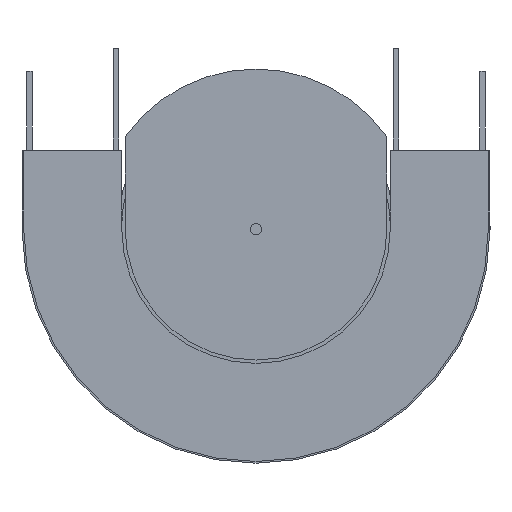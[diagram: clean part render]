
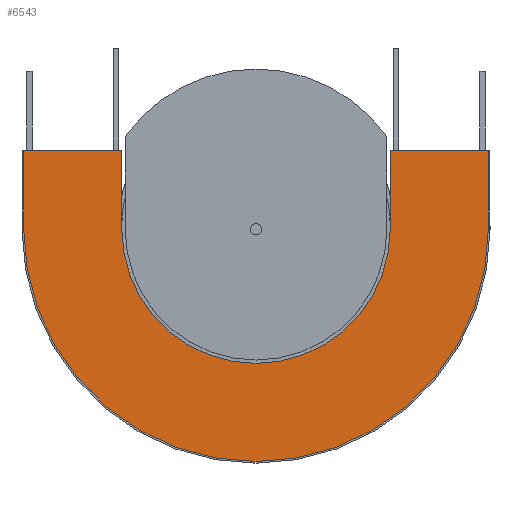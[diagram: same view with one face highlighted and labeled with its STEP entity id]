
A CAD part, front view. The second image highlights one B-rep face of the part: STEP entity #6543.
In plain terms, the highlighted planar face has unit normal (0, -1, 0).
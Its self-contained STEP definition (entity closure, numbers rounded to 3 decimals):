
#370 = PLANE ( 'NONE',  #6325 ) ;
#371 = CARTESIAN_POINT ( 'NONE',  ( -43.5, -42., -70. ) ) ;
#376 = DIRECTION ( 'NONE',  ( 0., -1., 0. ) ) ;
#377 = DIRECTION ( 'NONE',  ( 0., 0., -1. ) ) ;
#924 = CARTESIAN_POINT ( 'NONE',  ( 162.5, -42., -70. ) ) ;
#925 = DIRECTION ( 'NONE',  ( 0., -1., 0. ) ) ;
#926 = DIRECTION ( 'NONE',  ( 0., 0., -1. ) ) ;
#935 = CARTESIAN_POINT ( 'NONE',  ( 162.5, -42., -70. ) ) ;
#936 = DIRECTION ( 'NONE',  ( 0., -1., 0. ) ) ;
#937 = DIRECTION ( 'NONE',  ( 0., 0., -1. ) ) ;
#1609 = CIRCLE ( 'NONE', #6125, 119. ) ;
#1656 = CIRCLE ( 'NONE', #6123, 206. ) ;
#1813 = FACE_OUTER_BOUND ( 'NONE', #3627, .T. ) ;
#2043 = VECTOR ( 'NONE', #5359, 1000. ) ;
#2045 = LINE ( 'NONE', #5365, #2043 ) ;
#2046 = VECTOR ( 'NONE', #5366, 1000. ) ;
#2048 = CIRCLE ( 'NONE', #5998, 206. ) ;
#2049 = VECTOR ( 'NONE', #5357, 1000. ) ;
#2051 = LINE ( 'NONE', #5360, #2046 ) ;
#2052 = VECTOR ( 'NONE', #5358, 1000. ) ;
#2053 = LINE ( 'NONE', #5361, #2049 ) ;
#2055 = LINE ( 'NONE', #5356, #2052 ) ;
#2057 = CIRCLE ( 'NONE', #5997, 119. ) ;
#2633 = ORIENTED_EDGE ( 'NONE', *, *, #4557, .T. ) ;
#2634 = ORIENTED_EDGE ( 'NONE', *, *, #4558, .F. ) ;
#2635 = ORIENTED_EDGE ( 'NONE', *, *, #4963, .F. ) ;
#2636 = ORIENTED_EDGE ( 'NONE', *, *, #4559, .F. ) ;
#2637 = ORIENTED_EDGE ( 'NONE', *, *, #4711, .T. ) ;
#2638 = ORIENTED_EDGE ( 'NONE', *, *, #4560, .T. ) ;
#2639 = ORIENTED_EDGE ( 'NONE', *, *, #4561, .T. ) ;
#2640 = ORIENTED_EDGE ( 'NONE', *, *, #4959, .T. ) ;
#2641 = ORIENTED_EDGE ( 'NONE', *, *, #4562, .F. ) ;
#2642 = ORIENTED_EDGE ( 'NONE', *, *, #4750, .F. ) ;
#3062 = CARTESIAN_POINT ( 'NONE',  ( 368.5, -42., 0. ) ) ;
#3098 = CARTESIAN_POINT ( 'NONE',  ( 368.5, -42., -70. ) ) ;
#3103 = CARTESIAN_POINT ( 'NONE',  ( 43.5, -42., -70. ) ) ;
#3115 = CARTESIAN_POINT ( 'NONE',  ( 281.5, -42., 0. ) ) ;
#3198 = VECTOR ( 'NONE', #5781, 1000. ) ;
#3201 = LINE ( 'NONE', #5780, #3198 ) ;
#3276 = VECTOR ( 'NONE', #5703, 1000. ) ;
#3279 = LINE ( 'NONE', #5702, #3276 ) ;
#3462 = VERTEX_POINT ( 'NONE', #3062 ) ;
#3499 = VERTEX_POINT ( 'NONE', #3098 ) ;
#3504 = VERTEX_POINT ( 'NONE', #3103 ) ;
#3627 = EDGE_LOOP ( 'NONE', ( #2642, #2641, #2640, #2639, #2638, #2637, #2636, #2635, #2634, #2633 ) ) ;
#4197 = VERTEX_POINT ( 'NONE', #3115 ) ;
#4272 = VERTEX_POINT ( 'NONE', #5030 ) ;
#4273 = VERTEX_POINT ( 'NONE', #5031 ) ;
#4441 = VERTEX_POINT ( 'NONE', #5199 ) ;
#4442 = VERTEX_POINT ( 'NONE', #5200 ) ;
#4444 = VERTEX_POINT ( 'NONE', #5202 ) ;
#4445 = VERTEX_POINT ( 'NONE', #5203 ) ;
#4557 = EDGE_CURVE ( 'NONE', #3504, #4272, #2055, .T. ) ;
#4558 = EDGE_CURVE ( 'NONE', #3504, #4445, #2057, .T. ) ;
#4559 = EDGE_CURVE ( 'NONE', #4444, #4197, #2053, .T. ) ;
#4560 = EDGE_CURVE ( 'NONE', #3499, #3462, #2051, .T. ) ;
#4561 = EDGE_CURVE ( 'NONE', #4441, #3499, #2048, .T. ) ;
#4562 = EDGE_CURVE ( 'NONE', #4442, #4273, #2045, .T. ) ;
#4711 = EDGE_CURVE ( 'NONE', #3462, #4197, #3279, .T. ) ;
#4750 = EDGE_CURVE ( 'NONE', #4273, #4272, #3201, .T. ) ;
#4959 = EDGE_CURVE ( 'NONE', #4442, #4441, #1656, .T. ) ;
#4963 = EDGE_CURVE ( 'NONE', #4445, #4444, #1609, .T. ) ;
#5030 = CARTESIAN_POINT ( 'NONE',  ( 43.5, -42., 0. ) ) ;
#5031 = CARTESIAN_POINT ( 'NONE',  ( -43.5, -42., 0. ) ) ;
#5199 = CARTESIAN_POINT ( 'NONE',  ( 162.5, -42., -276. ) ) ;
#5200 = CARTESIAN_POINT ( 'NONE',  ( -43.5, -42., -70. ) ) ;
#5202 = CARTESIAN_POINT ( 'NONE',  ( 281.5, -42., -70. ) ) ;
#5203 = CARTESIAN_POINT ( 'NONE',  ( 162.5, -42., -189. ) ) ;
#5356 = CARTESIAN_POINT ( 'NONE',  ( 43.5, -42., -70. ) ) ;
#5357 = DIRECTION ( 'NONE',  ( 0., 0., 1. ) ) ;
#5358 = DIRECTION ( 'NONE',  ( 0., 0., 1. ) ) ;
#5359 = DIRECTION ( 'NONE',  ( 0., 0., 1. ) ) ;
#5360 = CARTESIAN_POINT ( 'NONE',  ( 368.5, -42., -70. ) ) ;
#5361 = CARTESIAN_POINT ( 'NONE',  ( 281.5, -42., -70. ) ) ;
#5362 = CARTESIAN_POINT ( 'NONE',  ( 162.5, -42., -70. ) ) ;
#5363 = DIRECTION ( 'NONE',  ( 0., -1., 0. ) ) ;
#5364 = DIRECTION ( 'NONE',  ( 0., 0., -1. ) ) ;
#5365 = CARTESIAN_POINT ( 'NONE',  ( -43.5, -42., -70. ) ) ;
#5366 = DIRECTION ( 'NONE',  ( 0., 0., 1. ) ) ;
#5368 = CARTESIAN_POINT ( 'NONE',  ( 162.5, -42., -70. ) ) ;
#5369 = DIRECTION ( 'NONE',  ( 0., -1., 0. ) ) ;
#5370 = DIRECTION ( 'NONE',  ( 0., 0., -1. ) ) ;
#5702 = CARTESIAN_POINT ( 'NONE',  ( 368.5, -42., 0. ) ) ;
#5703 = DIRECTION ( 'NONE',  ( -1., 0., 0. ) ) ;
#5780 = CARTESIAN_POINT ( 'NONE',  ( -43.5, -42., 0. ) ) ;
#5781 = DIRECTION ( 'NONE',  ( 1., 0., 0. ) ) ;
#5997 = AXIS2_PLACEMENT_3D ( 'NONE', #5362, #5363, #5364 ) ;
#5998 = AXIS2_PLACEMENT_3D ( 'NONE', #5368, #5369, #5370 ) ;
#6123 = AXIS2_PLACEMENT_3D ( 'NONE', #924, #925, #926 ) ;
#6125 = AXIS2_PLACEMENT_3D ( 'NONE', #935, #936, #937 ) ;
#6325 = AXIS2_PLACEMENT_3D ( 'NONE', #371, #376, #377 ) ;
#6543 = ADVANCED_FACE ( 'NONE', ( #1813 ), #370, .T. ) ;
